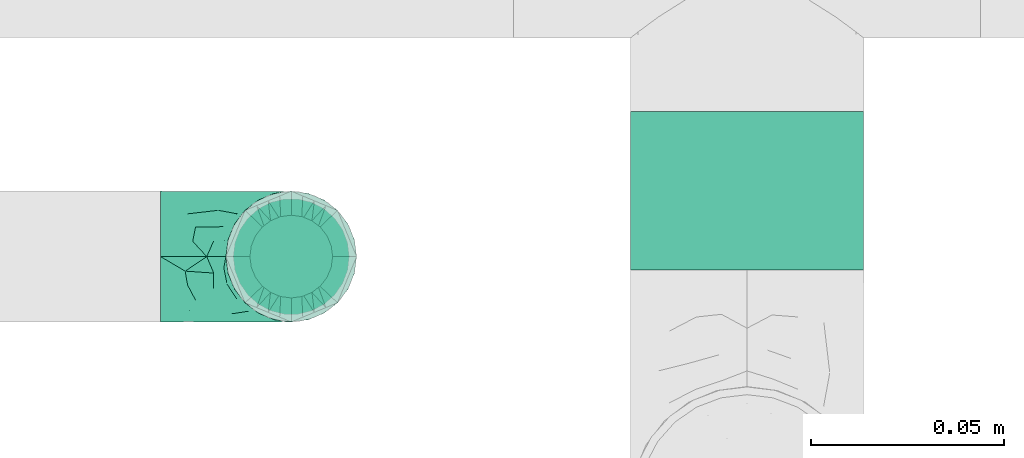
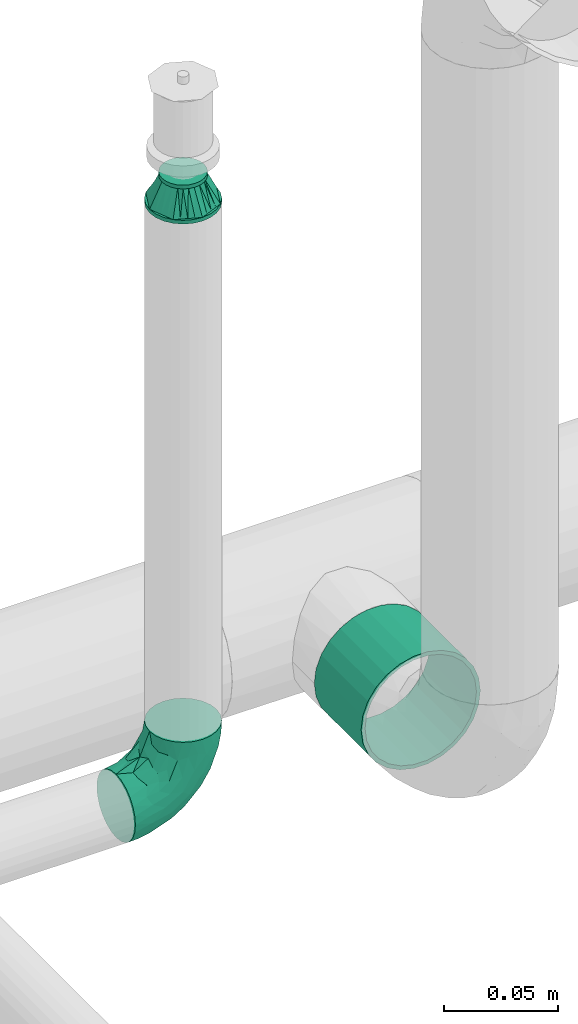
# One storey, part 119 of 157: 2 flow fittings, 1 flow segment.
"""IFC2X3 building model written with IfcOpenShell, lengths in millimetres."""

from ifc_helpers import new_model, entity, si_unit, converted_unit, derived_unit, direction, frame, origin_with_axes, origin_2d_with_axis, place, context, subcontext, project, spatial, hollow_circle, extrude, open_shell, surface_model, source, transform, mapped, type_object, element, save


model = new_model("IFC2X3")

# Units and contexts
model_context = context("Model", 3, precision=0.01, world=frame((0.0, 4.29681676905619e-09, 0.0)), true_north=direction((4.01073788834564e-13, 1.0)))
plan_context = context("Plan", 3, precision=0.01, world=frame((0.0, 4.29681676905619e-09, 0.0)), true_north=direction((4.01073788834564e-13, 1.0)))
body_context = subcontext(model_context, "Body", "Model", "MODEL_VIEW")
ifc_project = project(units=[converted_unit("PLANEANGLEUNIT", "DEGREE", entity("IfcPositiveLengthMeasure", 0.0174532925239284), si_unit("PLANEANGLEUNIT", "RADIAN"), dimensions=[0, 0, 0, 0, 0, 0, 0]), si_unit("AREAUNIT", "SQUARE_METRE"), si_unit("LENGTHUNIT", "METRE", prefix="MILLI"), si_unit("MASSUNIT", "GRAM", prefix="KILO"), si_unit("POWERUNIT", "WATT"), si_unit("PRESSUREUNIT", "PASCAL"), si_unit("FORCEUNIT", "NEWTON", prefix="KILO"), si_unit("ELECTRICCURRENTUNIT", "AMPERE"), si_unit("THERMODYNAMICTEMPERATUREUNIT", "DEGREE_CELSIUS"), si_unit("TIMEUNIT", "SECOND"), si_unit("VOLUMEUNIT", "CUBIC_METRE"), derived_unit("LINEARVELOCITYUNIT", [(si_unit("LENGTHUNIT", "METRE"), 1), (si_unit("TIMEUNIT", "SECOND"), -1)]), derived_unit("VOLUMETRICFLOWRATEUNIT", [(si_unit("VOLUMEUNIT", "CUBIC_METRE"), 1), (si_unit("TIMEUNIT", "SECOND"), -1)]), derived_unit("THERMALTRANSMITTANCEUNIT", [(si_unit("POWERUNIT", "WATT"), 1), (si_unit("THERMODYNAMICTEMPERATUREUNIT", "KELVIN"), -1), (si_unit("AREAUNIT", "SQUARE_METRE"), -1)])], contexts=[model_context, plan_context])

# Site, building, storey
site_placement = place(None, frame((0.0, -4.29681676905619e-09, 0.0), z_axis=(0.0, 0.0, 1.0), x_axis=(1.0, 0.0, 0.0)))
site = spatial("IfcSite", under=ifc_project, at=site_placement, CompositionType="ELEMENT")
building_placement = place(site_placement, frame((0.0, 4.29681676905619e-09, 0.0), z_axis=(0.0, 0.0, 1.0), x_axis=(1.0, 0.0, 0.0)))
building = spatial("IfcBuilding", under=site, at=building_placement, Name="mc-building", CompositionType="ELEMENT")
storey_placement = place(building_placement, frame((0.0, 0.0, 204000.0), z_axis=(0.0, 0.0, 1.0), x_axis=(1.0, 0.0, 0.0)))
storey = spatial("IfcBuildingStorey", under=building, at=storey_placement, Name="Nivå D", CompositionType="ELEMENT", Elevation=204000.0)

# Flow fittings
pipe_fitting_type_1 = type_object("IfcPipeFittingType", Name="magi_pipe_fe_elbow_short_001", PredefinedType="BEND")
shared_shape_1 = source(origin_with_axes(), body_context, "Body", "SurfaceModel", [
    surface_model("IfcShellBasedSurfaceModel", [(-33.8, 8.45, -14.63583), (-33.8, 4.37404, -16.32415), (-33.8, 11.9501, -11.9501), (-33.8, -11.9501, -11.9501), (-33.8, -14.63583, -8.45), (-33.8, -8.45, -14.63583), (-33.8, 0.0, -16.9), (-33.8, -4.37404, -16.32415), (-33.8, -4.37404, 16.32415), (-33.8, 0.0, 16.9), (-33.8, -8.45, 14.63583), (-33.8, 16.32415, -4.37404), (-33.8, 14.63583, -8.45), (-33.8, -16.32415, -4.37404), (-33.8, -16.9, 0.0), (-33.8, -16.32415, 4.37404), (-33.8, 11.9501, 11.9501), (-33.8, 14.63583, 8.45), (-33.8, 16.32415, 4.37404), (-33.8, 4.37404, 16.32415), (-33.8, 8.45, 14.63583), (-33.8, -14.63583, 8.45), (-33.8, -11.9501, 11.9501), (-33.8, 16.9, 0.0), (-11.9501, 33.8, -11.9501), (0.0, 33.8, -16.9), (-4.37404, 33.8, -16.32415), (-8.45, 33.8, -14.63583), (-14.63583, 33.8, -8.45), (-16.32415, 33.8, -4.37404), (14.63583, 33.8, -8.45), (8.45, 33.8, 14.63583), (16.32415, 33.8, -4.37404), (8.45, 33.8, -14.63583), (11.9501, 33.8, -11.9501), (4.37404, 33.8, -16.32415), (16.32415, 33.8, 4.37404), (16.9, 33.8, 0.0), (-11.9501, 33.8, 11.9501), (-16.32415, 33.8, 4.37404), (-14.63583, 33.8, 8.45), (-8.45, 33.8, 14.63583), (-4.37404, 33.8, 16.32415), (11.9501, 33.8, 11.9501), (14.63583, 33.8, 8.45), (0.0, 33.8, 16.9), (4.37404, 33.8, 16.32415), (-16.9, 33.8, 0.0), (-24.79389, -13.12945, 9.48721), (-22.19287, -9.75018, 12.59315), (-24.09897, -14.97035, 0.0), (-14.93934, -10.76256, 8.5297), (-22.46095, -14.75051, 5.27077), (14.75051, 22.46094, 5.27077), (11.9251, 13.23888, 4.33236), (13.04069, 14.39795, 0.0), (7.71387, 13.68847, 11.55891), (9.75018, 22.19287, 12.59315), (4.10169, 13.0571, 14.04018), (-24.84007, -6.39063, 15.2048), (-25.81779, -2.23879, 16.61097), (-23.66549, 2.59054, 16.87119), (-26.50418, 14.06512, 11.08152), (-24.21253, 17.66365, 7.72657), (-29.58514, 15.86957, 7.00283), (-6.17382, -7.5455, 0.0), (-13.23888, -11.9251, 4.33236), (-14.39795, -13.04069, 0.0), (-17.81434, 18.87373, 11.97104), (-6.30846, 29.15138, 15.82987), (-2.31622, 25.28002, 16.85849), (-29.23923, 10.23435, 13.77053), (-1.45439, -2.85688, 7.61475), (-0.28326, 0.34872, 10.09509), (-5.74484, -4.04709, 10.4122), (-4.41137, 11.31918, 16.59407), (-8.39727, 3.10034, 15.7812), (-1.72649, 9.1306, 15.53089), (-17.39909, 24.75344, 7.64977), (-26.19233, 20.0512, 0.0), (-28.14518, 17.29657, 4.25857), (-26.05147, 6.6281, 15.96447), (-5.87354, 16.61944, 16.86968), (-12.51807, 12.51807, 16.48937), (-10.06312, 7.38516, 16.81295), (-3.01882, 3.01882, 13.81718), (-13.0571, -4.10169, 14.04018), (-16.82553, -0.15166, 16.38038), (10.76256, 14.93934, 8.5297), (13.12945, 24.79389, 9.48721), (6.39063, 24.84007, 15.2048), (2.23879, 25.81779, 16.61097), (-13.68847, -7.71387, 11.55891), (14.97035, 24.09897, 0.0), (-7.30894, 22.89991, 16.09489), (-10.67958, 26.17414, 14.008), (-12.78295, 18.26924, 15.06066), (-13.88562, 22.45231, 12.93244), (-18.04944, 15.16501, 14.04434), (-23.11658, 20.08178, 4.02986), (-21.84989, 21.84989, 0.0), (-18.55817, 25.48277, 3.93065), (-13.95142, 26.94732, 11.03289), (-18.57098, 7.23906, 16.59756), (-16.58335, 4.14122, 16.89279), (-17.96666, 11.46709, 15.63151), (-9.84453, 17.54304, 16.18938), (0.15166, 16.82553, 16.38038), (-23.27207, 11.47201, 14.23154), (3.84842, 5.86994, 10.70473), (-8.0212, -7.54413, 7.93275), (1.00345, -2.19508, 4.57414), (5.13203, 3.01004, 5.90201), (5.24161, 1.7543, 2.53265), (8.70457, 7.04947, 3.99182), (-20.0512, 26.19233, 0.0), (8.4852, 8.76699, 7.09296), (-4.55488, -6.72064, 4.90681), (2.05031, -2.05031, 0.0), (7.5455, 6.17382, 0.0), (-26.75399, 2.1369, -16.845), (-14.61995, 24.73803, -11.27736), (-28.45274, -13.45335, -9.81895), (-26.00469, 6.63555, -15.96645), (-23.06726, 20.04573, -4.26202), (-13.80647, -4.26506, -14.17873), (-14.67501, -0.21081, -16.07388), (-6.7902, -0.2828, -13.8478), (-24.53586, 11.08096, -14.13417), (-26.72048, 14.00837, -11.05776), (10.0967, 24.44989, -12.75976), (5.83237, 21.40218, -15.03047), (6.66249, 28.54238, -15.38093), (-20.38182, 15.48705, -12.74596), (12.53268, 21.23441, -9.15363), (12.54494, 15.67504, -5.54878), (9.7522, 12.89279, -8.66343), (-15.65186, 19.64213, -13.01327), (-12.03528, 20.66498, -14.67665), (-15.61907, 15.61906, -14.83879), (-25.56551, -15.26206, 0.0), (-24.65452, -15.12934, -5.50955), (13.45335, 28.45274, -9.81895), (15.12934, 24.65452, -5.50955), (-7.35442, -8.31014, -5.65563), (-15.67504, -12.54494, -5.54878), (-24.44989, -10.0967, -12.75976), (0.16522, 0.41303, -9.71728), (-5.70658, -5.33066, -8.89288), (-5.13869, -2.37198, -11.53565), (-21.23441, -12.53268, -9.15363), (0.71146, 7.93863, -14.09382), (0.21081, 14.67501, -16.07388), (3.49291, 14.42772, -14.76381), (-24.89911, -2.13088, -16.591), (-28.54238, -6.66249, -15.38093), (-18.44386, -7.71663, -13.26957), (2.13088, 24.89911, -16.591), (-28.64342, 17.44413, -2.89318), (1.70017, -1.28722, -5.09504), (-16.57067, 26.81947, -7.36596), (-17.69055, 27.4263, -3.76405), (-12.89279, -9.7522, -8.66343), (-5.96611, 5.96611, -15.95814), (-20.53709, 20.09345, -8.28985), (-2.1369, 26.75399, -16.845), (-6.89872, 24.58781, -16.02578), (-10.60739, 26.53157, -13.98044), (-21.40218, -5.83237, -15.03047), (2.93192, 5.89627, -11.55917), (6.89393, 12.61842, -11.82233), (5.58056, 5.95325, -8.79455), (-3.99512, 18.61798, -16.89635), (8.31014, 7.35442, -5.65563), (-9.1383, 9.86148, -16.89041), (-9.99983, 16.02119, -16.39699), (-16.68576, 9.78031, -16.34199), (-27.01915, 16.61158, -7.12979), (15.26206, 25.56551, 0.0), (-18.61798, 3.99512, -16.89635), (-19.37495, 27.82495, 0.0), (-12.61842, -6.89393, -11.82233), (-18.84705, 19.14018, -10.96545)], [open_shell([[[0, 1, 2]], [[3, 4, 5]], [[6, 7, 5]], [[8, 9, 10]], [[1, 6, 2]], [[11, 12, 2]], [[4, 2, 6]], [[2, 13, 10]], [[5, 4, 6]], [[2, 4, 13]], [[14, 15, 13]], [[11, 2, 16]], [[11, 17, 18]], [[11, 16, 17]], [[19, 20, 16]], [[16, 2, 10]], [[19, 16, 10]], [[21, 22, 15]], [[22, 13, 15]], [[22, 10, 13]], [[10, 9, 19]], [[11, 18, 23]], [[24, 25, 26]], [[24, 26, 27]], [[24, 28, 29]], [[25, 24, 30]], [[31, 32, 24]], [[33, 30, 34]], [[33, 35, 25]], [[25, 30, 33]], [[32, 30, 24]], [[32, 36, 37]], [[38, 24, 29]], [[39, 40, 29]], [[40, 38, 29]], [[38, 41, 42]], [[38, 31, 24]], [[31, 38, 42]], [[36, 43, 44]], [[36, 32, 43]], [[31, 45, 46]], [[32, 31, 43]], [[42, 45, 31]], [[39, 29, 47]], [[22, 48, 49]], [[15, 14, 50]], [[51, 48, 52]], [[53, 54, 55]], [[48, 22, 21]], [[15, 52, 21]], [[56, 57, 58]], [[49, 10, 22]], [[49, 59, 10]], [[9, 60, 61]], [[62, 63, 64]], [[65, 66, 67]], [[57, 43, 31]], [[62, 68, 63]], [[42, 69, 70]], [[20, 71, 16]], [[8, 60, 9]], [[72, 73, 74]], [[75, 76, 77]], [[16, 62, 17]], [[40, 39, 78]], [[79, 23, 80]], [[64, 18, 17]], [[9, 61, 19]], [[19, 81, 20]], [[82, 83, 84]], [[74, 85, 86]], [[59, 86, 87]], [[88, 89, 57]], [[90, 31, 46]], [[44, 53, 36]], [[46, 45, 91]], [[54, 53, 88]], [[44, 89, 53]], [[92, 86, 49]], [[89, 44, 43]], [[10, 59, 8]], [[53, 55, 93]], [[93, 36, 53]], [[66, 52, 67]], [[94, 82, 70]], [[95, 96, 94]], [[97, 98, 96]], [[79, 99, 100]], [[41, 38, 95]], [[101, 100, 99]], [[68, 78, 63]], [[42, 41, 69]], [[23, 18, 80]], [[95, 94, 69]], [[78, 101, 99]], [[38, 102, 95]], [[70, 45, 42]], [[97, 95, 102]], [[15, 50, 52]], [[90, 57, 31]], [[57, 90, 58]], [[81, 19, 61]], [[103, 104, 84]], [[105, 81, 103]], [[38, 40, 102]], [[106, 96, 83]], [[94, 106, 82]], [[91, 70, 107]], [[71, 62, 16]], [[62, 108, 98]], [[86, 59, 49]], [[67, 52, 50]], [[60, 59, 87]], [[92, 49, 51]], [[86, 85, 76]], [[91, 90, 46]], [[37, 36, 93]], [[107, 77, 58]], [[107, 58, 90]], [[58, 85, 109]], [[110, 74, 92]], [[72, 74, 110]], [[66, 51, 52]], [[72, 111, 112]], [[113, 114, 112]], [[56, 88, 57]], [[52, 48, 21]], [[49, 48, 51]], [[57, 89, 43]], [[53, 89, 88]], [[103, 81, 61]], [[71, 81, 108]], [[18, 64, 80]], [[63, 78, 99]], [[47, 115, 101]], [[101, 115, 100]], [[40, 78, 102]], [[68, 102, 78]], [[97, 96, 95]], [[105, 98, 108]], [[103, 84, 83]], [[107, 70, 82]], [[76, 84, 87]], [[82, 84, 75]], [[70, 91, 45]], [[90, 91, 107]], [[59, 60, 8]], [[61, 60, 87]], [[73, 85, 74]], [[109, 112, 116]], [[103, 61, 104]], [[105, 103, 83]], [[96, 105, 83]], [[81, 105, 108]], [[96, 98, 105]], [[62, 98, 68]], [[61, 87, 104]], [[87, 84, 104]], [[86, 76, 87]], [[77, 76, 85]], [[58, 77, 85]], [[75, 77, 107]], [[82, 75, 107]], [[76, 75, 84]], [[81, 71, 20]], [[62, 71, 108]], [[95, 69, 41]], [[70, 69, 94]], [[62, 64, 17]], [[80, 63, 99]], [[63, 80, 64]], [[80, 99, 79]], [[66, 65, 117]], [[110, 66, 117]], [[112, 114, 116]], [[118, 117, 65]], [[110, 92, 51]], [[112, 111, 113]], [[119, 55, 54]], [[74, 86, 92]], [[58, 109, 56]], [[116, 56, 109]], [[66, 110, 51]], [[72, 110, 117]], [[111, 72, 117]], [[73, 112, 109]], [[117, 118, 111]], [[113, 111, 118]], [[118, 119, 113]], [[114, 119, 54]], [[119, 114, 113]], [[116, 54, 88]], [[54, 116, 114]], [[116, 88, 56]], [[112, 73, 72]], [[85, 73, 109]], [[78, 39, 101]], [[47, 101, 39]], [[102, 68, 97]], [[97, 68, 98]], [[82, 106, 83]], [[94, 96, 106]], [[1, 120, 6]], [[28, 24, 121]], [[3, 122, 4]], [[0, 123, 1]], [[100, 124, 79]], [[125, 126, 127]], [[128, 2, 129]], [[130, 131, 132]], [[128, 129, 133]], [[134, 135, 136]], [[137, 138, 139]], [[128, 0, 2]], [[67, 140, 141]], [[134, 142, 143]], [[141, 13, 4]], [[144, 65, 145]], [[146, 3, 5]], [[147, 148, 149]], [[145, 141, 150]], [[151, 152, 153]], [[154, 7, 6]], [[5, 155, 146]], [[150, 146, 156]], [[155, 5, 7]], [[143, 135, 134]], [[35, 157, 25]], [[23, 79, 158]], [[148, 159, 144]], [[160, 161, 29]], [[145, 162, 144]], [[163, 152, 151]], [[29, 28, 160]], [[121, 164, 160]], [[33, 34, 130]], [[25, 165, 26]], [[26, 165, 166]], [[142, 34, 30]], [[24, 27, 167]], [[124, 161, 164]], [[157, 35, 132]], [[155, 154, 168]], [[123, 0, 128]], [[169, 170, 171]], [[172, 157, 152]], [[26, 166, 27]], [[132, 35, 33]], [[142, 130, 34]], [[168, 154, 126]], [[136, 135, 173]], [[133, 137, 139]], [[2, 12, 129]], [[170, 131, 130]], [[30, 32, 143]], [[172, 174, 175]], [[176, 123, 128]], [[158, 177, 11]], [[135, 55, 119]], [[167, 27, 166]], [[175, 166, 172]], [[137, 167, 138]], [[122, 141, 4]], [[140, 14, 13]], [[32, 37, 178]], [[170, 130, 134]], [[152, 157, 131]], [[165, 157, 172]], [[153, 170, 151]], [[152, 163, 174]], [[168, 125, 156]], [[122, 146, 150]], [[120, 154, 6]], [[179, 174, 126]], [[179, 126, 154]], [[126, 163, 127]], [[162, 145, 150]], [[140, 13, 141]], [[32, 178, 143]], [[55, 143, 178]], [[177, 129, 12]], [[128, 133, 139]], [[176, 128, 139]], [[120, 123, 179]], [[121, 160, 28]], [[161, 100, 180]], [[166, 175, 138]], [[121, 24, 167]], [[161, 47, 29]], [[79, 124, 158]], [[124, 164, 177]], [[161, 124, 100]], [[136, 171, 170]], [[127, 163, 151]], [[147, 171, 159]], [[148, 144, 162]], [[127, 151, 169]], [[127, 181, 125]], [[129, 177, 164]], [[12, 11, 177]], [[159, 65, 144]], [[67, 141, 145]], [[143, 55, 135]], [[135, 119, 173]], [[123, 120, 1]], [[154, 120, 179]], [[157, 165, 25]], [[166, 165, 172]], [[172, 152, 174]], [[176, 139, 175]], [[126, 174, 163]], [[176, 174, 179]], [[174, 176, 175]], [[123, 176, 179]], [[150, 181, 162]], [[127, 149, 181]], [[181, 148, 162]], [[159, 148, 147]], [[171, 136, 173]], [[170, 134, 136]], [[159, 171, 173]], [[171, 147, 169]], [[169, 147, 149]], [[151, 170, 169]], [[164, 182, 129]], [[182, 121, 137]], [[181, 149, 148]], [[169, 149, 127]], [[182, 137, 133]], [[167, 137, 121]], [[166, 138, 167]], [[175, 139, 138]], [[129, 182, 133]], [[121, 182, 164]], [[161, 160, 164]], [[47, 161, 180]], [[177, 158, 124]], [[23, 158, 11]], [[130, 132, 33]], [[157, 132, 131]], [[143, 142, 30]], [[130, 142, 134]], [[154, 155, 7]], [[146, 155, 168]], [[146, 122, 3]], [[141, 122, 150]], [[152, 131, 153]], [[159, 119, 118]], [[67, 145, 65]], [[170, 153, 131]], [[119, 159, 173]], [[159, 118, 65]], [[156, 125, 181]], [[126, 125, 168]], [[150, 156, 181]], [[168, 156, 146]]])]),
])
flow_fitting_1_placement = place(storey_placement, frame((527640.35, 413944.735, 2690.0), z_axis=(0.0, 1.0, 0.0), x_axis=(0.0, 0.0, -1.0)))
element("IfcFlowFitting", 1, at=flow_fitting_1_placement, inside=storey, type_object=pipe_fitting_type_1, Name="magi_pipe_fe_elbow_short_001", context=body_context, shape_type="MappedRepresentation", body=[
    mapped(shared_shape_1, transform((0.0, 0.0, 0.0), scale=1.0)),
])
pipe_fitting_type_2 = type_object("IfcPipeFittingType", Name="magi_pipe_fe_reducer_centric_short_NOR", PredefinedType="TRANSITION")
shared_shape_2 = source(origin_with_axes(), body_context, "Body", "SurfaceModel", [
    surface_model("IfcShellBasedSurfaceModel", [(-2.0, -7.56604, -7.56604), (-2.0, -10.33541, -2.76936), (-2.0, -5.35, -9.26647), (-2.0, 5.35, -9.26647), (-2.0, 10.33541, -2.76936), (-2.0, 7.56604, -7.56604), (12.4, 11.9501, 11.9501), (12.4, 0.0, 16.9), (12.4, 11.9501, -11.9501), (12.4, 16.9, 0.0), (0.0, -10.7, 0.0), (0.0, -5.35, 9.26647), (0.0, -5.35, -9.26647), (0.0, 10.7, 0.0), (12.4, 15.66253, -2.98753), (12.4, 8.96258, -13.18758), (0.0, 6.6875, -6.94985), (12.4, -15.66253, -2.98753), (12.4, -16.9, 0.0), (12.4, 5.97505, -14.42505), (0.0, 5.35, -9.26647), (12.4, 14.42505, -5.97505), (0.0, 8.025, -4.63324), (0.0, 9.3625, -2.31662), (0.0, -9.3625, -2.31662), (0.0, -8.025, -4.63324), (12.4, -14.42505, -5.97505), (12.4, 13.18758, -8.96258), (12.4, -13.18758, -8.96258), (12.4, -11.9501, -11.9501), (0.0, -6.6875, -6.94985), (12.4, -8.96258, -13.18758), (12.4, -5.97505, -14.42505), (12.4, -15.66253, 2.98753), (12.4, -8.96258, 13.18758), (0.0, -6.6875, 6.94985), (12.4, -11.9501, 11.9501), (12.4, 15.66253, 2.98753), (12.4, -5.97505, 14.42505), (12.4, -14.42505, 5.97505), (0.0, -8.025, 4.63324), (0.0, -9.3625, 2.31662), (0.0, 9.3625, 2.31662), (0.0, 8.025, 4.63324), (12.4, 14.42505, 5.97505), (12.4, -13.18758, 8.96258), (12.4, 13.18758, 8.96258), (0.0, 6.6875, 6.94985), (12.4, 8.96258, 13.18758), (0.0, 5.35, 9.26647), (12.4, 5.97505, 14.42505), (14.4, 4.37404, -16.32415), (14.4, 8.45, -14.63583), (14.4, 11.9501, -11.9501), (14.4, -8.45, -14.63583), (14.4, 16.32415, -4.37404), (14.4, 16.32415, 4.37404), (14.4, 14.63583, -8.45), (14.4, 0.0, -16.9), (14.4, -4.37404, -16.32415), (14.4, -11.9501, -11.9501), (14.4, -16.32415, -4.37404), (14.4, -14.63583, -8.45), (14.4, -16.32415, 4.37404), (14.4, 16.9, 0.0), (14.4, 14.63583, 8.45), (14.4, 11.9501, 11.9501), (14.4, 4.37404, 16.32415), (14.4, 8.45, 14.63583), (14.4, 0.0, 16.9), (14.4, -14.63583, 8.45), (14.4, -16.9, 0.0), (14.4, -8.45, 14.63583), (14.4, -11.9501, 11.9501), (14.4, -4.37404, 16.32415), (12.4, 4.37404, 16.32415), (12.4, -14.63583, 8.45), (12.4, 16.32415, 4.37404), (12.4, 8.45, 14.63583), (12.4, 14.63583, 8.45), (12.4, -8.45, 14.63583), (12.4, -4.37404, 16.32415), (12.4, -16.32415, 4.37404), (12.4, -16.32415, -4.37404), (12.4, -8.45, -14.63583), (12.4, 16.32415, -4.37404), (12.4, 14.63583, -8.45), (12.4, 8.45, -14.63583), (12.4, 4.37404, -16.32415), (12.4, 0.0, -16.9), (12.4, -14.63583, -8.45), (12.4, -4.37404, -16.32415), (-2.0, 2.76936, 10.33541), (-2.0, 0.0, 10.7), (-2.0, 5.35, 9.26647), (-2.0, 7.56604, 7.56604), (-2.0, 9.26647, 5.35), (-2.0, 10.33541, 2.76936), (-2.0, -10.33541, 2.76936), (-2.0, -2.76936, 10.33541), (-2.0, -7.56604, 7.56604), (-2.0, -5.35, 9.26647), (-2.0, -9.26647, 5.35), (-2.0, -10.7, 0.0), (-2.0, 9.26647, -5.35), (-2.0, 2.76936, -10.33541), (-2.0, -9.26647, -5.35), (-2.0, 0.0, -10.7), (-2.0, -2.76936, -10.33541), (-2.0, 10.7, 0.0), (0.0, 0.0, -10.7), (0.0, 2.76936, -10.33541), (0.0, 10.33541, -2.76936), (0.0, 7.56604, -7.56604), (0.0, -10.33541, -2.76936), (0.0, 9.26647, -5.35), (0.0, 0.0, 10.7), (0.0, -2.76936, -10.33541), (0.0, -7.56604, -7.56604), (0.0, -9.26647, -5.35), (0.0, 10.33541, 2.76936), (0.0, 9.26647, 5.35), (0.0, 7.56604, 7.56604), (0.0, 2.76936, 10.33541), (0.0, -7.56604, 7.56604), (0.0, -10.33541, 2.76936), (0.0, -9.26647, 5.35), (0.0, -2.76936, 10.33541), (0.0, 2.675, -9.26647), (0.0, -2.675, -9.26647), (12.4, 2.98753, -15.66253), (0.0, 0.0, -9.26647), (12.4, -2.98753, -15.66253), (0.0, -2.675, 9.26647), (0.0, 2.675, 9.26647), (12.4, -2.98753, 15.66253), (0.0, 0.0, 9.26647), (12.4, 2.98753, 15.66253)], [open_shell([[[0, 1, 2]], [[3, 4, 5]], [[6, 7, 8]], [[8, 9, 6]], [[10, 11, 12]], [[13, 9, 14]], [[15, 16, 8]], [[17, 18, 10]], [[15, 19, 20]], [[21, 22, 23]], [[24, 25, 26]], [[22, 21, 27]], [[28, 26, 25]], [[29, 30, 31]], [[12, 32, 31]], [[10, 18, 33]], [[34, 35, 36]], [[37, 9, 13]], [[34, 38, 11]], [[39, 40, 41]], [[42, 43, 44]], [[40, 39, 45]], [[46, 44, 43]], [[6, 47, 48]], [[49, 50, 48]], [[51, 52, 53]], [[54, 51, 53]], [[53, 55, 56]], [[55, 53, 57]], [[53, 56, 54]], [[58, 54, 59]], [[58, 51, 54]], [[60, 61, 62]], [[61, 60, 54]], [[54, 63, 61]], [[56, 55, 64]], [[56, 65, 66]], [[56, 66, 67]], [[67, 63, 54]], [[67, 66, 68]], [[63, 67, 69]], [[69, 70, 63]], [[71, 61, 63]], [[70, 72, 73]], [[70, 69, 72]], [[72, 69, 74]], [[54, 56, 67]], [[75, 76, 7]], [[77, 75, 78]], [[6, 79, 77]], [[6, 77, 78]], [[76, 75, 77]], [[80, 76, 36]], [[80, 81, 7]], [[7, 76, 80]], [[82, 76, 77]], [[82, 83, 18]], [[82, 77, 84]], [[77, 85, 8]], [[8, 85, 86]], [[8, 87, 88]], [[84, 77, 8]], [[88, 89, 8]], [[83, 29, 90]], [[29, 83, 84]], [[84, 89, 91]], [[83, 82, 84]], [[8, 89, 84]], [[85, 77, 9]], [[83, 61, 18]], [[90, 62, 83]], [[54, 29, 84]], [[90, 29, 60]], [[59, 84, 91]], [[83, 62, 61]], [[61, 71, 18]], [[59, 54, 84]], [[60, 29, 54]], [[60, 62, 90]], [[58, 59, 91]], [[91, 89, 58]], [[88, 51, 89]], [[87, 52, 88]], [[57, 8, 86]], [[87, 8, 53]], [[55, 86, 85]], [[87, 53, 52]], [[52, 51, 88]], [[64, 55, 85]], [[57, 86, 55]], [[57, 53, 8]], [[9, 64, 85]], [[89, 51, 58]], [[77, 56, 9]], [[79, 65, 77]], [[68, 6, 78]], [[79, 6, 66]], [[67, 78, 75]], [[77, 65, 56]], [[56, 64, 9]], [[67, 68, 78]], [[66, 6, 68]], [[66, 65, 79]], [[69, 67, 75]], [[75, 7, 69]], [[81, 74, 7]], [[80, 72, 81]], [[70, 36, 76]], [[80, 36, 73]], [[63, 76, 82]], [[80, 73, 72]], [[72, 74, 81]], [[71, 63, 82]], [[70, 76, 63]], [[70, 73, 36]], [[18, 71, 82]], [[7, 74, 69]], [[92, 1, 93]], [[94, 1, 92]], [[95, 96, 97]], [[95, 97, 94]], [[98, 93, 1]], [[99, 100, 101]], [[99, 93, 100]], [[100, 98, 102]], [[93, 98, 100]], [[98, 1, 103]], [[94, 97, 1]], [[1, 97, 4]], [[5, 4, 104]], [[4, 3, 1]], [[105, 1, 3]], [[1, 0, 106]], [[2, 107, 108]], [[2, 1, 105]], [[105, 107, 2]], [[4, 97, 109]], [[20, 110, 111]], [[112, 20, 113]], [[114, 20, 112]], [[112, 113, 115]], [[116, 114, 112]], [[110, 12, 117]], [[110, 20, 12]], [[118, 114, 119]], [[114, 118, 12]], [[20, 114, 12]], [[112, 13, 120]], [[120, 121, 122]], [[120, 122, 123]], [[116, 112, 123]], [[123, 122, 49]], [[116, 124, 114]], [[125, 124, 126]], [[10, 114, 125]], [[124, 127, 11]], [[125, 114, 124]], [[127, 124, 116]], [[123, 112, 120]], [[1, 114, 103]], [[106, 119, 1]], [[12, 0, 2]], [[106, 0, 118]], [[117, 2, 108]], [[1, 119, 114]], [[114, 10, 103]], [[117, 12, 2]], [[118, 0, 12]], [[118, 119, 106]], [[110, 117, 108]], [[108, 107, 110]], [[105, 111, 107]], [[3, 20, 105]], [[115, 5, 104]], [[3, 5, 113]], [[112, 104, 4]], [[3, 113, 20]], [[20, 111, 105]], [[13, 112, 4]], [[115, 104, 112]], [[115, 113, 5]], [[109, 13, 4]], [[107, 111, 110]], [[97, 120, 109]], [[96, 121, 97]], [[49, 95, 94]], [[96, 95, 122]], [[123, 94, 92]], [[97, 121, 120]], [[120, 13, 109]], [[123, 49, 94]], [[122, 95, 49]], [[122, 121, 96]], [[116, 123, 92]], [[92, 93, 116]], [[99, 127, 93]], [[101, 11, 99]], [[126, 100, 102]], [[101, 100, 124]], [[125, 102, 98]], [[101, 124, 11]], [[11, 127, 99]], [[10, 125, 98]], [[126, 102, 125]], [[126, 124, 100]], [[103, 10, 98]], [[93, 127, 116]], [[18, 7, 36]], [[18, 29, 8]], [[89, 8, 29]], [[18, 8, 7]], [[13, 11, 49]], [[13, 20, 12]], [[13, 12, 11]], [[24, 26, 17]], [[10, 24, 17]], [[16, 15, 20]], [[30, 12, 31]], [[23, 14, 21]], [[19, 128, 20]], [[27, 8, 16]], [[32, 12, 129]], [[30, 28, 25]], [[130, 131, 128]], [[129, 132, 32]], [[16, 22, 27]], [[13, 14, 23]], [[128, 19, 130]], [[130, 89, 131]], [[131, 132, 129]], [[89, 132, 131]], [[28, 30, 29]], [[42, 44, 37]], [[13, 42, 37]], [[35, 34, 11]], [[47, 49, 48]], [[41, 33, 39]], [[38, 133, 11]], [[45, 36, 35]], [[50, 49, 134]], [[47, 46, 43]], [[135, 136, 133]], [[134, 137, 50]], [[35, 40, 45]], [[10, 33, 41]], [[133, 38, 135]], [[135, 7, 136]], [[136, 137, 134]], [[7, 137, 136]], [[46, 47, 6]]])]),
])
flow_fitting_2_placement = place(storey_placement, frame((527640.35, 413944.735, 3014.54800000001), z_axis=(0.0, -1.0, 0.0), x_axis=(0.0, 0.0, -1.0)))
element("IfcFlowFitting", 2, at=flow_fitting_2_placement, inside=storey, type_object=pipe_fitting_type_2, Name="magi_pipe_fe_reducer_centric_short_NOR", context=body_context, shape_type="MappedRepresentation", body=[
    mapped(shared_shape_2, transform((0.0, 0.0, 0.0), scale=1.0)),
])

# Flow segment
pipe_segment_type = type_object("IfcPipeSegmentType", Name="Stålrør normaltykke", PredefinedType="RIGIDSEGMENT")
shared_shape_3 = source(origin_with_axes(), body_context, "Body", "SweptSolid", [
    extrude(hollow_circle(Radius=30.1, WallThickness=2.0, at=origin_2d_with_axis()), frame((0.0, 0.0, 0.0), z_axis=(1.0, 0.0, 0.0), x_axis=(0.0, 1.0, 0.0)), (0.0, 0.0, 1.0), 40.9),
])
flow_segment_placement = place(storey_placement, frame((527758.2357, 413941.31523, 2690.0), z_axis=(0.0, 0.0, 1.0), x_axis=(0.0, 1.0, 0.0)))
element("IfcFlowSegment", 3, at=flow_segment_placement, inside=storey, type_object=pipe_segment_type, Name="Stålrør normaltykke", context=body_context, shape_type="MappedRepresentation", body=[
    mapped(shared_shape_3, transform((0.0, 0.0, 0.0), scale=1.0)),
])

save(model, "model.ifc")
